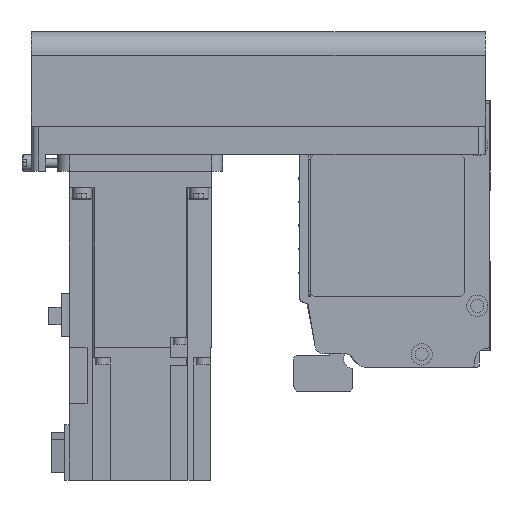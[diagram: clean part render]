
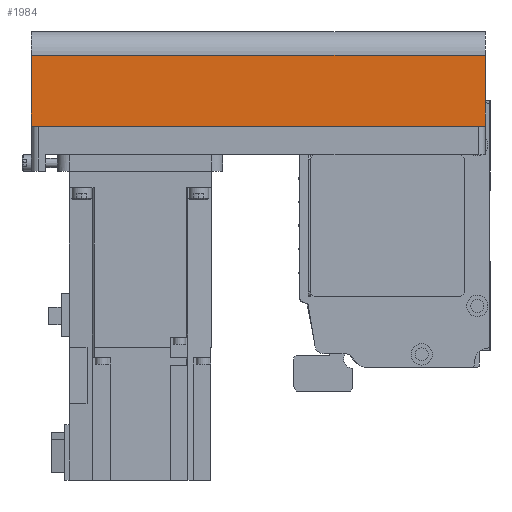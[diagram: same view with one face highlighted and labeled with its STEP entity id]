
A CAD part, left-side view. The second image highlights one B-rep face of the part: STEP entity #1984.
In plain terms, the highlighted planar face has unit normal (-1, 0, 0) as drawn and (0, 1, 0) by its records, which use the part's own axes.
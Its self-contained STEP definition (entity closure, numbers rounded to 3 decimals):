
#1984 = ADVANCED_FACE( '', ( #4214 ), #4215, .T. );
#4214 = FACE_OUTER_BOUND( '', #6654, .T. );
#4215 = PLANE( '', #6655 );
#6654 = EDGE_LOOP( '', ( #12011, #12012, #12013, #12014 ) );
#6655 = AXIS2_PLACEMENT_3D( '', #12015, #12016, #12017 );
#12011 = ORIENTED_EDGE( '', *, *, #15080, .F. );
#12012 = ORIENTED_EDGE( '', *, *, #14192, .F. );
#12013 = ORIENTED_EDGE( '', *, *, #15775, .T. );
#12014 = ORIENTED_EDGE( '', *, *, #15927, .T. );
#12015 = CARTESIAN_POINT( '', ( -192., 40., -42. ) );
#12016 = DIRECTION( '', ( 0., 1., 0. ) );
#12017 = DIRECTION( '', ( 0., 0., 1. ) );
#14192 = EDGE_CURVE( '', #17018, #17014, #17020, .T. );
#15080 = EDGE_CURVE( '', #17014, #17107, #18441, .T. );
#15775 = EDGE_CURVE( '', #17018, #19403, #19405, .T. );
#15927 = EDGE_CURVE( '', #19403, #17107, #19591, .T. );
#17014 = VERTEX_POINT( '', #20974 );
#17018 = VERTEX_POINT( '', #20979 );
#17020 = LINE( '', #20981, #20982 );
#17107 = VERTEX_POINT( '', #21098 );
#18441 = LINE( '', #22876, #22877 );
#19403 = VERTEX_POINT( '', #24173 );
#19405 = LINE( '', #24176, #24177 );
#19591 = LINE( '', #24425, #24426 );
#20974 = CARTESIAN_POINT( '', ( 0., 40., -42. ) );
#20979 = CARTESIAN_POINT( '', ( -192., 40., -42. ) );
#20981 = CARTESIAN_POINT( '', ( -192., 40., -42. ) );
#20982 = VECTOR( '', #25430, 1000. );
#21098 = CARTESIAN_POINT( '', ( 0., 40., -12.1 ) );
#22876 = CARTESIAN_POINT( '', ( 0., 40., -42. ) );
#22877 = VECTOR( '', #26573, 1000. );
#24173 = CARTESIAN_POINT( '', ( -192., 40., -12.1 ) );
#24176 = CARTESIAN_POINT( '', ( -192., 40., -42. ) );
#24177 = VECTOR( '', #27323, 1000. );
#24425 = CARTESIAN_POINT( '', ( -192., 40., -12.1 ) );
#24426 = VECTOR( '', #27485, 1000. );
#25430 = DIRECTION( '', ( 1., 0., 0. ) );
#26573 = DIRECTION( '', ( 0., 0., 1. ) );
#27323 = DIRECTION( '', ( 0., 0., 1. ) );
#27485 = DIRECTION( '', ( 1., 0., 0. ) );
